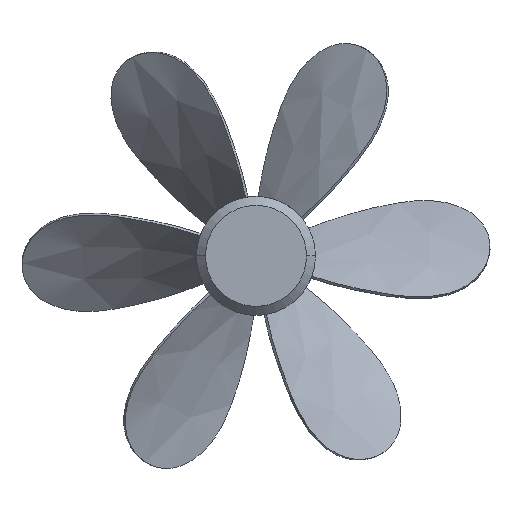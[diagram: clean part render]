
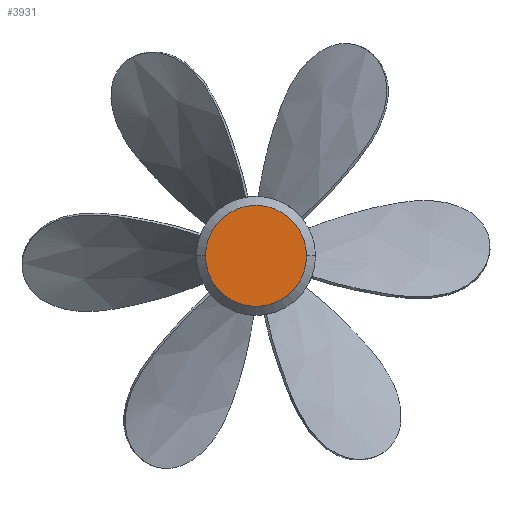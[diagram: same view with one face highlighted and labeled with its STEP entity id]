
A CAD part, top view. The second image highlights one B-rep face of the part: STEP entity #3931.
In plain terms, the highlighted planar face has unit normal (0, 0, 1).
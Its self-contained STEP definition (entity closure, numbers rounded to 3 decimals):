
#350 = CARTESIAN_POINT ( 'NONE',  ( 0., 0., 30. ) ) ;
#1410 = VERTEX_POINT ( 'NONE', #3507 ) ;
#1460 = VERTEX_POINT ( 'NONE', #5129 ) ;
#1488 = FACE_OUTER_BOUND ( 'NONE', #1539, .T. ) ;
#1539 = EDGE_LOOP ( 'NONE', ( #3633, #3082 ) ) ;
#1561 = EDGE_CURVE ( 'NONE', #1410, #1460, #1734, .T. ) ;
#1734 = CIRCLE ( 'NONE', #2402, 17. ) ;
#1880 = DIRECTION ( 'NONE',  ( 1., 0., 0. ) ) ;
#1964 = DIRECTION ( 'NONE',  ( 1., 0., 0. ) ) ;
#2402 = AXIS2_PLACEMENT_3D ( 'NONE', #4385, #3195, #1964 ) ;
#3082 = ORIENTED_EDGE ( 'NONE', *, *, #4353, .T. ) ;
#3159 = DIRECTION ( 'NONE',  ( 1., 0., 0. ) ) ;
#3195 = DIRECTION ( 'NONE',  ( 0., 0., 1. ) ) ;
#3240 = AXIS2_PLACEMENT_3D ( 'NONE', #350, #3952, #1880 ) ;
#3501 = DIRECTION ( 'NONE',  ( 0., 0., 1. ) ) ;
#3507 = CARTESIAN_POINT ( 'NONE',  ( -17., 0., 30. ) ) ;
#3523 = CARTESIAN_POINT ( 'NONE',  ( 0., 0., 30. ) ) ;
#3568 = AXIS2_PLACEMENT_3D ( 'NONE', #3523, #3501, #3159 ) ;
#3633 = ORIENTED_EDGE ( 'NONE', *, *, #1561, .T. ) ;
#3931 = ADVANCED_FACE ( 'NONE', ( #1488 ), #4790, .T. ) ;
#3952 = DIRECTION ( 'NONE',  ( 0., 0., 1. ) ) ;
#4353 = EDGE_CURVE ( 'NONE', #1460, #1410, #4590, .T. ) ;
#4385 = CARTESIAN_POINT ( 'NONE',  ( 0., 0., 30. ) ) ;
#4590 = CIRCLE ( 'NONE', #3568, 17. ) ;
#4790 = PLANE ( 'NONE',  #3240 ) ;
#5129 = CARTESIAN_POINT ( 'NONE',  ( 17., 0., 30. ) ) ;
